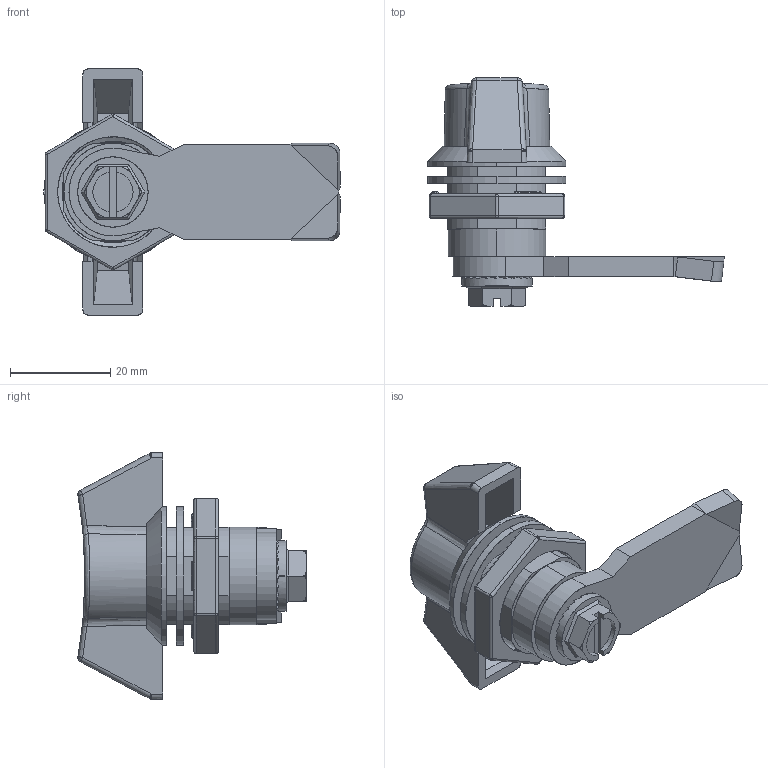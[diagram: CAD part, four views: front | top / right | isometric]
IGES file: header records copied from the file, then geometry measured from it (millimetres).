
Start section: SolidWorks IGES file using analytic representation for surfaces
Global section: file name: E:\DATA FOLDER FOR WEB-2015\'B' SECTION\CAM Lock\Final IGS\DMCL-WL-MR.IGS; native system: SolidWorks 2015; preprocessor: SolidWorks 2015; author: Administrator; date: 160314.184806; units: millimetre
Bounding box: 58.99 x 45.44 x 49 mm (x, y, z)
Surface area: 10464.2 mm2 (no closed solid volume)
Topology: 0 solids, 0 shells, 221 faces, 2661 edges, 2638 vertices
Faces by surface type: bspline 139, revolution 82
